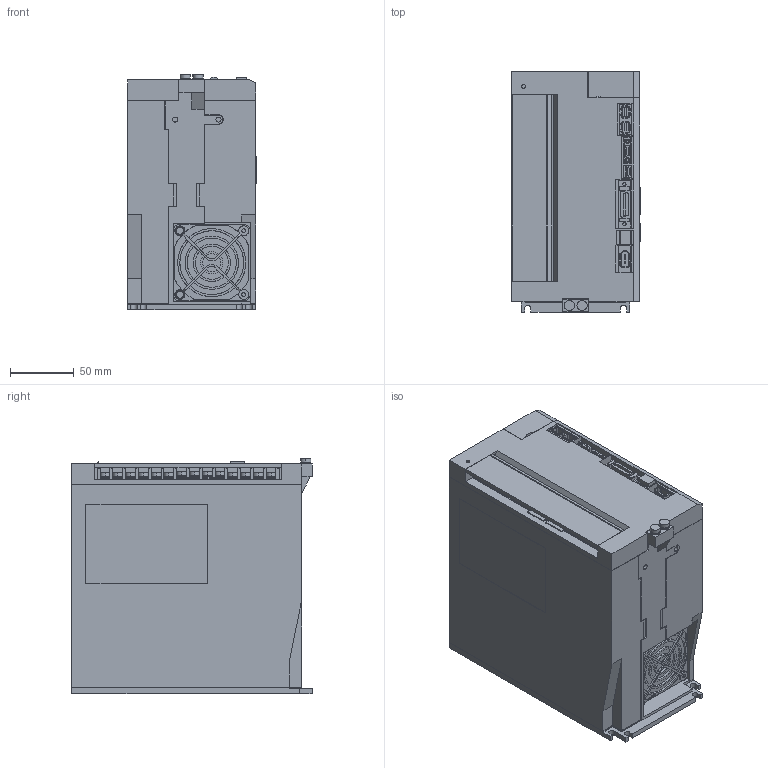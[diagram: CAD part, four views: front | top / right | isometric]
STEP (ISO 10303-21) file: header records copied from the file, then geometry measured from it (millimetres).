
FILE_DESCRIPTION (( 'STEP AP203' ), '1' );
FILE_NAME ('sgd7s_200a20a.STEP', '2015-09-18T08:26:40', ( '匠エンジニアリング山之内' ), ( 'TAKUMI-Engniaring' ), 'SwSTEP 2.0', 'SolidWorks 2006303', '' );
FILE_SCHEMA (( 'CONFIG_CONTROL_DESIGN' ));
Length unit declared in the file: millimetre
Products named in the file (7): sgd7s_200a20a_cover2; sgd7s_200a20a_cover; sgd7s_200a20a; sgd7s_200a20a_base; sgd7s_200a20a_connector; sgd7s_200a20a_cover3; sgd7s_200a20a_terminal
Assembly tree (8 placements, depth 2):
  sgd7s_200a20a
    sgd7s_200a20a_cover2  x2
    sgd7s_200a20a_cover
    sgd7s_200a20a_terminal  x2
    sgd7s_200a20a_base
    sgd7s_200a20a_connector
    sgd7s_200a20a_cover3
Bounding box: 100.5 x 188 x 184.6 mm (x, y, z)
Volume: 3111390.6 mm3; surface area: 197535.5 mm2
Topology: 8 solids, 8 shells, 1987 faces, 5280 edges, 3458 vertices
Faces by surface type: plane 1671, cylinder 311, cone 4, sphere 1
Entity records: 60573 total; most frequent: CARTESIAN_POINT 10527, ORIENTED_EDGE 10356, DIRECTION 9850, EDGE_CURVE 5178, LINE 4424, VECTOR 4424, VERTEX_POINT 3390, AXIS2_PLACEMENT_3D 2713
